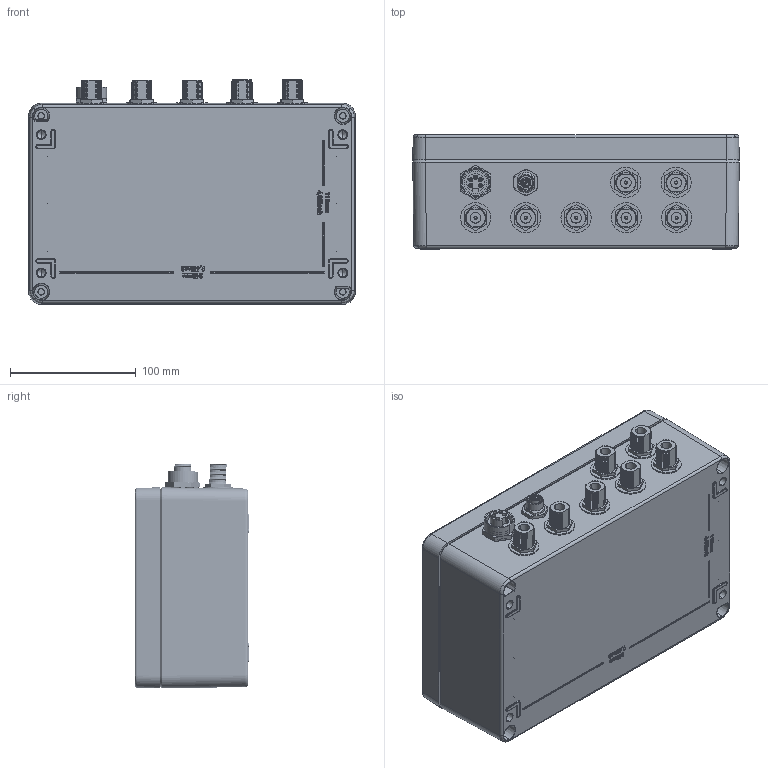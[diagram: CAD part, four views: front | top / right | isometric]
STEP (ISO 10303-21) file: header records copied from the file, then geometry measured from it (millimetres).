
FILE_DESCRIPTION (( 'STEP AP203' ), '1' );
FILE_NAME ('Zusammenbau Bahngerät 25.11.15.STEP', '2015-11-27T10:12:53', ( 'Frosch' ), ( '' ), 'SwSTEP 2.0', 'SolidWorks 2015', '' );
FILE_SCHEMA (( 'CONFIG_CONTROL_DESIGN' ));
Length unit declared in the file: millimetre
Products named in the file (9): Gehäuse 011626093; N Einbau Buchse; 1521449; 1562974 orginal; Zusammenbau Bahngerät 25.11.15; 93134_Standard; 01057_Standard; 02057_Standard; 82009_Standard
Assembly tree (17 placements, depth 3):
  Zusammenbau Bahngerät 25.11.15
    Gehäuse 011626093
      93134_Standard  x4
      01057_Standard
      02057_Standard
      82009_Standard
    N Einbau Buchse  x7
    1521449
    1562974 orginal
Bounding box: 260 x 91 x 178.81 mm (x, y, z)
Volume: 328818.6 mm3; surface area: 369840.9 mm2
Topology: 36 solids, 37 shells, 4474 faces, 11094 edges, 6505 vertices
Faces by surface type: bspline 1820, cylinder 1473, plane 963, cone 218
Entity records: 207865 total; most frequent: CARTESIAN_POINT 140896, ORIENTED_EDGE 15140, DIRECTION 11382, EDGE_CURVE 7572, VERTEX_POINT 4405, AXIS2_PLACEMENT_3D 4106, EDGE_LOOP 3555, ADVANCED_FACE 3349
